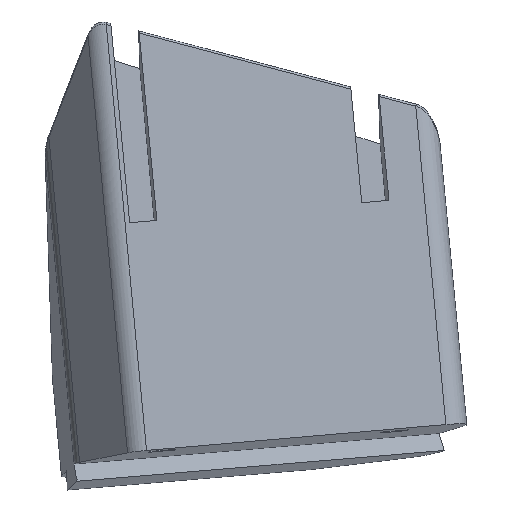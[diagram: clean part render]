
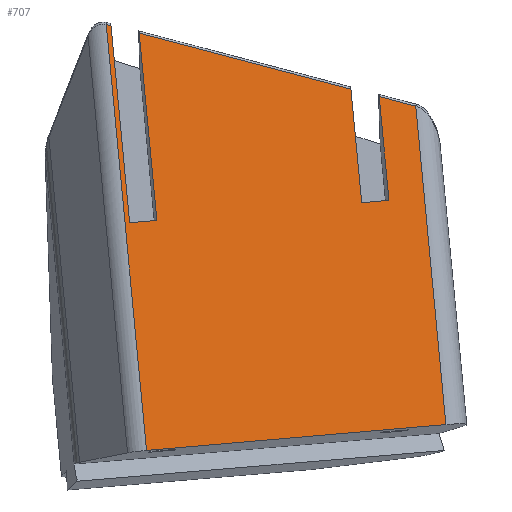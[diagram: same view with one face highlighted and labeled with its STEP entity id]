
A CAD part, top view. The second image highlights one B-rep face of the part: STEP entity #707.
In plain terms, the highlighted planar face has unit normal (0.082, 0.096, 0.992).
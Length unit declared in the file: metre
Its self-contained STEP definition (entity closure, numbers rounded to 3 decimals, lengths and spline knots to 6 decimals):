
#67=ORIENTED_EDGE('',*,*,#281,.F.);
#68=ORIENTED_EDGE('',*,*,#282,.T.);
#69=ORIENTED_EDGE('',*,*,#283,.T.);
#70=ORIENTED_EDGE('',*,*,#284,.F.);
#71=ORIENTED_EDGE('',*,*,#285,.T.);
#72=ORIENTED_EDGE('',*,*,#286,.T.);
#73=ORIENTED_EDGE('',*,*,#287,.T.);
#74=ORIENTED_EDGE('',*,*,#288,.T.);
#75=ORIENTED_EDGE('',*,*,#289,.F.);
#76=ORIENTED_EDGE('',*,*,#290,.T.);
#77=ORIENTED_EDGE('',*,*,#291,.T.);
#78=ORIENTED_EDGE('',*,*,#292,.T.);
#281=EDGE_CURVE('',#388,#389,#456,.T.);
#282=EDGE_CURVE('',#388,#390,#457,.T.);
#283=EDGE_CURVE('',#390,#391,#458,.T.);
#284=EDGE_CURVE('',#392,#391,#459,.T.);
#285=EDGE_CURVE('',#392,#393,#460,.F.);
#286=EDGE_CURVE('',#393,#394,#461,.T.);
#287=EDGE_CURVE('',#394,#395,#462,.T.);
#288=EDGE_CURVE('',#395,#396,#463,.T.);
#289=EDGE_CURVE('',#397,#396,#464,.T.);
#290=EDGE_CURVE('',#397,#398,#465,.T.);
#291=EDGE_CURVE('',#398,#399,#466,.T.);
#292=EDGE_CURVE('',#399,#389,#467,.T.);
#388=VERTEX_POINT('',#1046);
#389=VERTEX_POINT('',#1047);
#390=VERTEX_POINT('',#1049);
#391=VERTEX_POINT('',#1051);
#392=VERTEX_POINT('',#1053);
#393=VERTEX_POINT('',#1055);
#394=VERTEX_POINT('',#1057);
#395=VERTEX_POINT('',#1059);
#396=VERTEX_POINT('',#1061);
#397=VERTEX_POINT('',#1063);
#398=VERTEX_POINT('',#1065);
#399=VERTEX_POINT('',#1067);
#456=LINE('',#1045,#533);
#457=LINE('',#1048,#534);
#458=LINE('',#1050,#535);
#459=LINE('',#1052,#536);
#460=LINE('',#1054,#537);
#461=LINE('',#1056,#538);
#462=LINE('',#1058,#539);
#463=LINE('',#1060,#540);
#464=LINE('',#1062,#541);
#465=LINE('',#1064,#542);
#466=LINE('',#1066,#543);
#467=LINE('',#1068,#544);
#533=VECTOR('',#835,1.);
#534=VECTOR('',#836,1.);
#535=VECTOR('',#837,1.);
#536=VECTOR('',#838,1.);
#537=VECTOR('',#839,1.);
#538=VECTOR('',#840,1.);
#539=VECTOR('',#841,1.);
#540=VECTOR('',#842,1.);
#541=VECTOR('',#843,1.);
#542=VECTOR('',#844,1.);
#543=VECTOR('',#845,1.);
#544=VECTOR('',#846,1.);
#603=EDGE_LOOP('',(#67,#68,#69,#70,#71,#72,#73,#74,#75,#76,#77,#78));
#644=FACE_BOUND('',#603,.T.);
#685=PLANE('',#759);
#707=ADVANCED_FACE('',(#644),#685,.T.);
#759=AXIS2_PLACEMENT_3D('',#1044,#833,#834);
#833=DIRECTION('',(0.082,0.096,0.992));
#834=DIRECTION('',(0.,-0.995,0.096));
#835=DIRECTION('',(0.094,-0.992,0.088));
#836=DIRECTION('',(-0.965,0.255,0.055));
#837=DIRECTION('',(0.094,-0.992,0.088));
#838=DIRECTION('',(-0.992,-0.086,0.09));
#839=DIRECTION('',(0.094,-0.992,0.088));
#840=DIRECTION('',(-0.965,0.255,0.055));
#841=DIRECTION('',(0.094,-0.992,0.088));
#842=DIRECTION('',(-0.992,-0.086,0.09));
#843=DIRECTION('',(0.094,-0.992,0.088));
#844=DIRECTION('',(-0.965,0.255,0.055));
#845=DIRECTION('',(0.094,-0.992,0.088));
#846=DIRECTION('',(-0.992,-0.086,0.09));
#1044=CARTESIAN_POINT('',(0.019468,-0.037821,0.042217));
#1045=CARTESIAN_POINT('',(-0.11776,1.381844,-0.083275));
#1046=CARTESIAN_POINT('',(0.01805,-0.054576,0.043948));
#1047=CARTESIAN_POINT('',(0.022116,-0.097581,0.047757));
#1048=CARTESIAN_POINT('',(0.015338,-0.053859,0.044102));
#1049=CARTESIAN_POINT('',(0.017012,-0.054301,0.044007));
#1050=CARTESIAN_POINT('',(0.015487,-0.038166,0.042578));
#1051=CARTESIAN_POINT('',(0.025801,-0.147254,0.05224));
#1052=CARTESIAN_POINT('',(0.029782,-0.146909,0.051879));
#1053=CARTESIAN_POINT('',(0.091113,-0.141603,0.046324));
#1054=CARTESIAN_POINT('',(0.080799,-0.032514,0.036662));
#1055=CARTESIAN_POINT('',(0.084546,-0.072142,0.040172));
#1056=CARTESIAN_POINT('',(0.015338,-0.053859,0.044102));
#1057=CARTESIAN_POINT('',(0.076553,-0.07003,0.040626));
#1058=CARTESIAN_POINT('',(-0.061181,1.386739,-0.088399));
#1059=CARTESIAN_POINT('',(0.078695,-0.092686,0.042632));
#1060=CARTESIAN_POINT('',(0.075717,-0.092944,0.042902));
#1061=CARTESIAN_POINT('',(0.072739,-0.093201,0.043172));
#1062=CARTESIAN_POINT('',(-0.067137,1.386224,-0.08786));
#1063=CARTESIAN_POINT('',(0.070394,-0.068403,0.040975));
#1064=CARTESIAN_POINT('',(0.015338,-0.053859,0.044102));
#1065=CARTESIAN_POINT('',(0.024208,-0.056202,0.043598));
#1066=CARTESIAN_POINT('',(-0.111804,1.382359,-0.083814));
#1067=CARTESIAN_POINT('',(0.028072,-0.097066,0.047218));
#1068=CARTESIAN_POINT('',(0.025094,-0.097324,0.047487));
